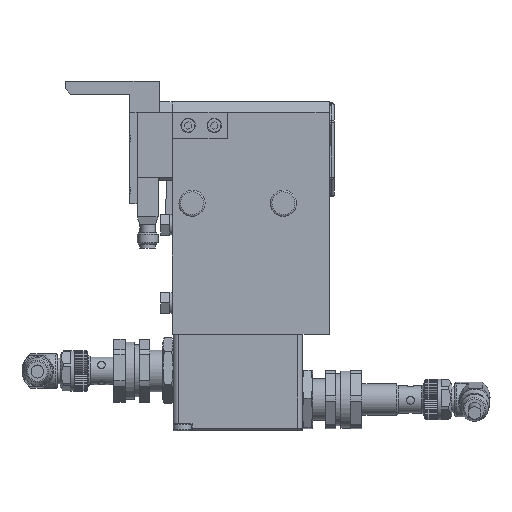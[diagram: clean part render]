
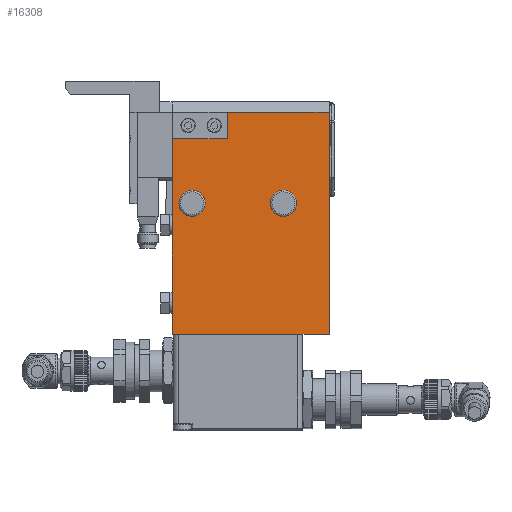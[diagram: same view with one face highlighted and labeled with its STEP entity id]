
A CAD part, front view. The second image highlights one B-rep face of the part: STEP entity #16308.
In plain terms, the highlighted planar face has unit normal (0, -1, 0).
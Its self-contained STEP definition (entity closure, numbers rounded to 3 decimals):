
#1132=LINE('',#26749,#2467);
#1133=LINE('',#26751,#2468);
#1134=LINE('',#26753,#2469);
#1135=LINE('',#26755,#2470);
#1136=LINE('',#26757,#2471);
#1137=LINE('',#26759,#2472);
#1138=LINE('',#26760,#2473);
#2467=VECTOR('',#20252,10.);
#2468=VECTOR('',#20253,21.);
#2469=VECTOR('',#20254,15.);
#2470=VECTOR('',#20255,60.);
#2471=VECTOR('',#20256,60.);
#2472=VECTOR('',#20257,85.);
#2473=VECTOR('',#20258,39.);
#3508=PLANE('',#17422);
#4050=FACE_BOUND('',#5730,.T.);
#4051=FACE_BOUND('',#5731,.T.);
#4699=FACE_OUTER_BOUND('',#5729,.T.);
#5729=EDGE_LOOP('',(#13006,#13007,#13008,#13009,#13010,#13011,#13012));
#5730=EDGE_LOOP('',(#13013));
#5731=EDGE_LOOP('',(#13014));
#6450=CIRCLE('',#17423,5.);
#6451=CIRCLE('',#17424,5.);
#7631=VERTEX_POINT('',#26747);
#7632=VERTEX_POINT('',#26748);
#7633=VERTEX_POINT('',#26750);
#7634=VERTEX_POINT('',#26752);
#7635=VERTEX_POINT('',#26754);
#7636=VERTEX_POINT('',#26756);
#7637=VERTEX_POINT('',#26758);
#7638=VERTEX_POINT('',#26761);
#7639=VERTEX_POINT('',#26763);
#9544=EDGE_CURVE('',#7631,#7632,#1132,.T.);
#9545=EDGE_CURVE('',#7632,#7633,#1133,.T.);
#9546=EDGE_CURVE('',#7633,#7634,#1134,.T.);
#9547=EDGE_CURVE('',#7634,#7635,#1135,.T.);
#9548=EDGE_CURVE('',#7635,#7636,#1136,.T.);
#9549=EDGE_CURVE('',#7636,#7637,#1137,.T.);
#9550=EDGE_CURVE('',#7637,#7631,#1138,.T.);
#9551=EDGE_CURVE('',#7638,#7638,#6450,.T.);
#9552=EDGE_CURVE('',#7639,#7639,#6451,.T.);
#13006=ORIENTED_EDGE('',*,*,#9544,.T.);
#13007=ORIENTED_EDGE('',*,*,#9545,.T.);
#13008=ORIENTED_EDGE('',*,*,#9546,.T.);
#13009=ORIENTED_EDGE('',*,*,#9547,.T.);
#13010=ORIENTED_EDGE('',*,*,#9548,.T.);
#13011=ORIENTED_EDGE('',*,*,#9549,.T.);
#13012=ORIENTED_EDGE('',*,*,#9550,.T.);
#13013=ORIENTED_EDGE('',*,*,#9551,.F.);
#13014=ORIENTED_EDGE('',*,*,#9552,.F.);
#16308=ADVANCED_FACE('',(#4699,#4050,#4051),#3508,.F.);
#17422=AXIS2_PLACEMENT_3D('',#26746,#20250,#20251);
#17423=AXIS2_PLACEMENT_3D('',#26762,#20259,#20260);
#17424=AXIS2_PLACEMENT_3D('',#26764,#20261,#20262);
#20250=DIRECTION('center_axis',(0.,1.,0.));
#20251=DIRECTION('ref_axis',(-1.,0.,0.));
#20252=DIRECTION('',(0.,0.,-1.));
#20253=DIRECTION('',(-1.,0.,0.));
#20254=DIRECTION('',(0.,0.,-1.));
#20255=DIRECTION('',(0.,0.,-1.));
#20256=DIRECTION('',(1.,0.,0.));
#20257=DIRECTION('',(0.,0.,1.));
#20258=DIRECTION('',(-1.,0.,0.));
#20259=DIRECTION('center_axis',(0.,-1.,0.));
#20260=DIRECTION('ref_axis',(-0.989,0.,-0.145));
#20261=DIRECTION('center_axis',(0.,-1.,0.));
#20262=DIRECTION('ref_axis',(-0.978,0.,-0.207));
#26746=CARTESIAN_POINT('Origin',(0.,0.,126.));
#26747=CARTESIAN_POINT('',(21.,0.,122.));
#26748=CARTESIAN_POINT('',(21.,0.,112.));
#26749=CARTESIAN_POINT('',(21.,0.,119.));
#26750=CARTESIAN_POINT('',(0.,0.,112.));
#26751=CARTESIAN_POINT('',(10.5,0.,112.));
#26752=CARTESIAN_POINT('',(0.,0.,97.));
#26753=CARTESIAN_POINT('',(0.,0.,122.));
#26754=CARTESIAN_POINT('',(0.,0.,37.));
#26755=CARTESIAN_POINT('',(0.,0.,122.));
#26756=CARTESIAN_POINT('',(60.,0.,37.));
#26757=CARTESIAN_POINT('',(0.,0.,37.));
#26758=CARTESIAN_POINT('',(60.,0.,122.));
#26759=CARTESIAN_POINT('',(60.,0.,37.));
#26760=CARTESIAN_POINT('',(60.,0.,122.));
#26761=CARTESIAN_POINT('',(47.447,0.,87.923));
#26762=CARTESIAN_POINT('Origin',(42.5,0.,87.2));
#26763=CARTESIAN_POINT('',(12.392,0.,88.233));
#26764=CARTESIAN_POINT('Origin',(7.5,0.,87.2));
